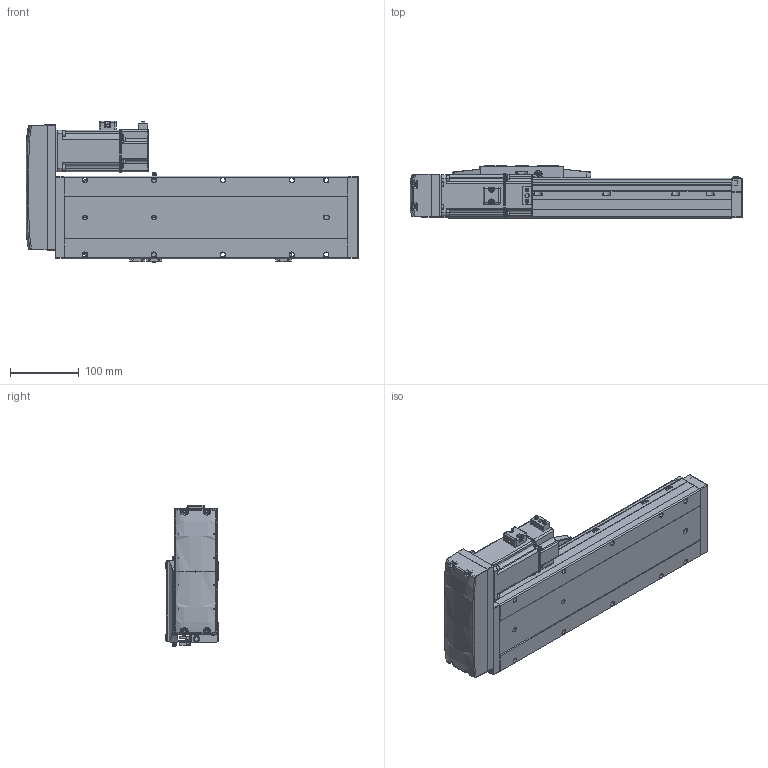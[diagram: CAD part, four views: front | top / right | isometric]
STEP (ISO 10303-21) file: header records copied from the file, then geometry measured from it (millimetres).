
FILE_DESCRIPTION (( 'STEP AP214' ), '1' );
FILE_NAME ('CTH12-L10-S200-BL-C40（简）.STEP', '2023-02-06T05:07:49', ( '' ), ( '' ), 'SwSTEP 2.0', 'SolidWorks 2018', '' );
FILE_SCHEMA (( 'AUTOMOTIVE_DESIGN' ));
Length unit declared in the file: millimetre
Products named in the file (24): CTH12底座-L411简（200行程）; CTH12-BL_body_4; CTH12賑怢ㄗ潠ㄘ; 内六角圆柱头螺钉M3-1; CTH12-L10-S200-BL-C40（简）; CTH12; 内六角圆柱头螺钉M3-2; 湮賑怢  裔赽-1(CTH12)賑怢; PM-Y45; 400W萇儂; CTH嫖萇羲壽假蚾啣; hex nuts, style 1-grades ab gb_GB_FASTENER_NUT_SNAB1 M3-N; CTH400W垫板（3个厚）; M5蹟隊; CTH12賑怢郪磁; 内六角圆柱头螺钉M3; CTH12耜蚾裔; CTH12侧装连接板（标准）简; 蚐郲; CTH400W假蚾啣; CTH12覜茼え; 嫖萇羲壽郪磁1; 嫖萇羲壽郪磁2; CTH12_body_3
Assembly tree (44 placements, depth 4):
  CTH12-L10-S200-BL-C40（简）
    CTH12底座-L411简（200行程）
    蚐郲  x2
    CTH12_body_3
    CTH12-BL_body_4
    CTH12侧装连接板（标准）简
    CTH12耜蚾裔
    CTH12賑怢郪磁
      CTH12
        湮賑怢  裔赽-1(CTH12)賑怢
        CTH12賑怢ㄗ潠ㄘ
    CTH12覜茼え
    CTH400W垫板（3个厚）
    400W萇儂
    内六角圆柱头螺钉M3  x6
    M5蹟隊  x4
    嫖萇羲壽郪磁1
      CTH嫖萇羲壽假蚾啣
      PM-Y45
      内六角圆柱头螺钉M3-2  x2
      内六角圆柱头螺钉M3-1  x2
      hex nuts, style 1-grades ab gb_GB_FASTENER_NUT_SNAB1 M3-N  x2
    嫖萇羲壽郪磁2  x2
      CTH嫖萇羲壽假蚾啣
      PM-Y45
      内六角圆柱头螺钉M3-1
      内六角圆柱头螺钉M3-2
      hex nuts, style 1-grades ab gb_GB_FASTENER_NUT_SNAB1 M3-N
    CTH400W假蚾啣
Bounding box: 481.5 x 76 x 205.26 mm (x, y, z)
Volume: 3496264.6 mm3; surface area: 499508.7 mm2
Topology: 47 solids, 48 shells, 3071 faces, 7648 edges, 4799 vertices
Faces by surface type: plane 1498, cylinder 890, cone 379, bspline 176, torus 124, sphere 4
Entity records: 100562 total; most frequent: CARTESIAN_POINT 37714, ORIENTED_EDGE 12398, DIRECTION 11681, EDGE_CURVE 6199, AXIS2_PLACEMENT_3D 4088, VERTEX_POINT 3903, LINE 3505, VECTOR 3505
